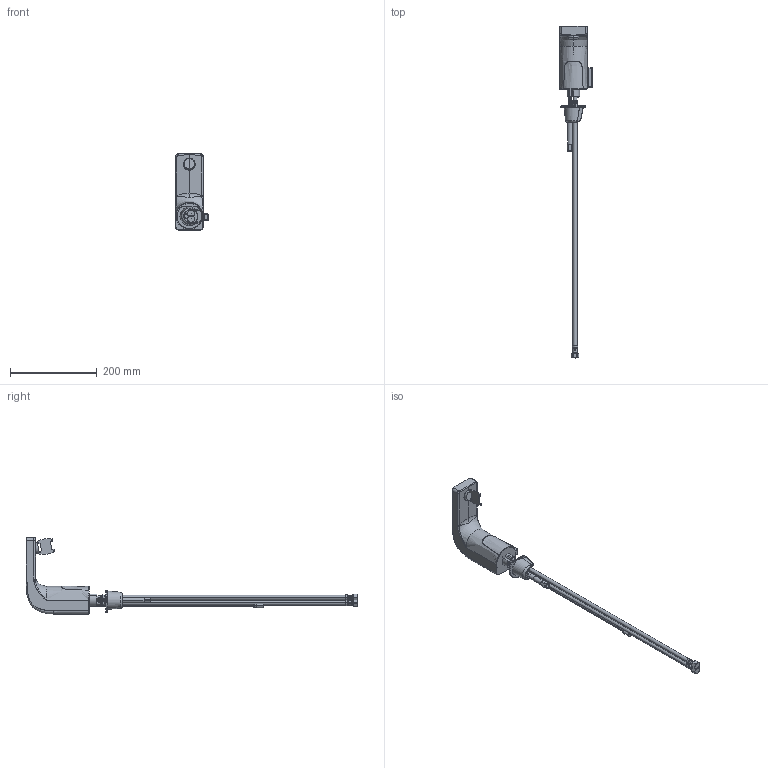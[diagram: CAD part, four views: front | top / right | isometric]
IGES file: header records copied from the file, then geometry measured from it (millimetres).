
Start section:  PTC IGES file: 116-675-ab-1_REV020822.igs
Global section: file name: 116-675-ab-1_REV020822.igs; native system: Creo Parametric by PTC Inc.; preprocessor: 2021184; author: rodjo; organization: Unknown; date: 20220208.145644; units: inch
Bounding box: 75.62 x 764.97 x 175.26 mm (x, y, z)
Surface area: 149373.4 mm2 (no closed solid volume)
Topology: 0 solids, 0 shells, 609 faces, 4861 edges, 6652 vertices
Faces by surface type: revolution 372, bspline 236, extrusion 1
